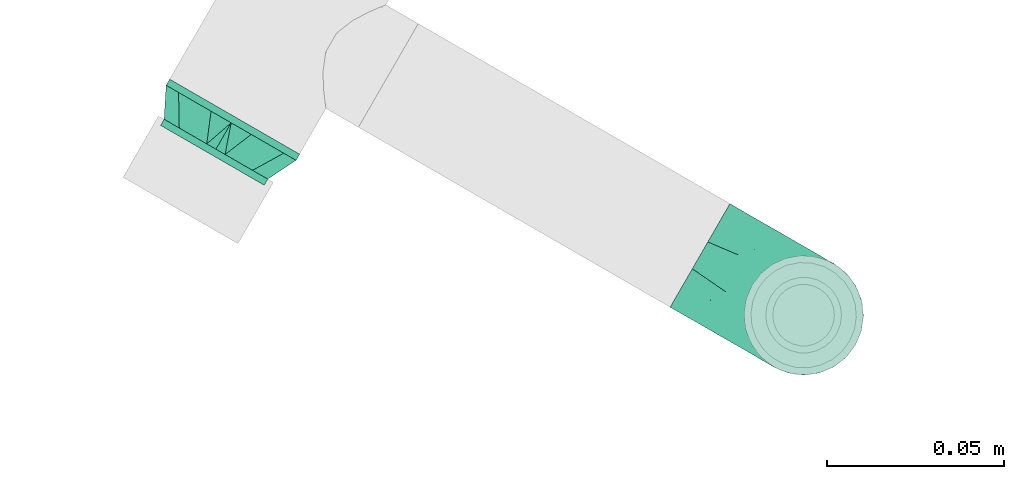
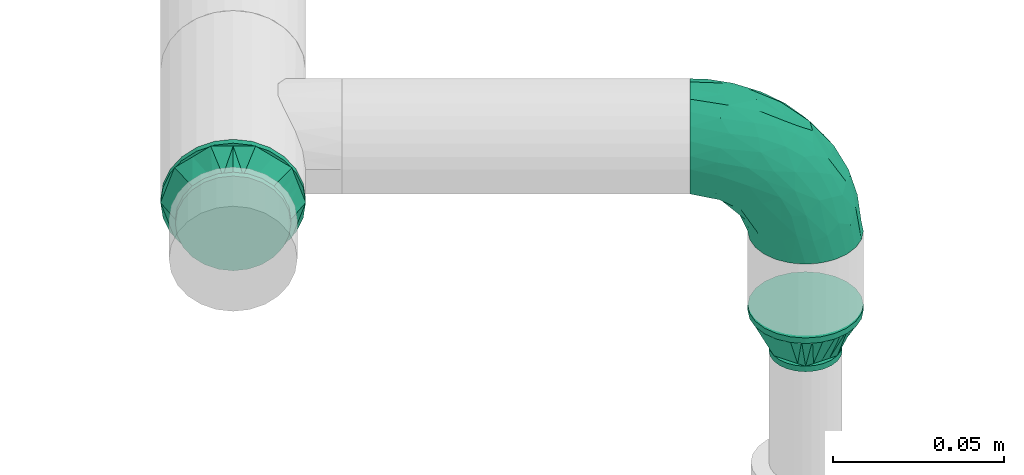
# One storey, part 23 of 43: 3 flow fittings.
"""IFC2X3 building model written with IfcOpenShell, lengths in millimetres."""

from ifc_helpers import new_model, entity, si_unit, converted_unit, derived_unit, direction, frame, origin_with_axes, place, context, subcontext, project, spatial, open_shell, surface_model, source, transform, mapped, type_object, element, save


model = new_model("IFC2X3")

# Units and contexts
model_context = context("Model", 3, precision=0.01, world=frame((0.0, 4.29681676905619e-09, 0.0)), true_north=direction((4.01073788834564e-13, 1.0)))
plan_context = context("Plan", 3, precision=0.01, world=frame((0.0, 4.29681676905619e-09, 0.0)), true_north=direction((4.01073788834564e-13, 1.0)))
body_context = subcontext(model_context, "Body", "Model", "MODEL_VIEW")
ifc_project = project(units=[converted_unit("PLANEANGLEUNIT", "DEGREE", entity("IfcPositiveLengthMeasure", 0.0174532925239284), si_unit("PLANEANGLEUNIT", "RADIAN"), dimensions=[0, 0, 0, 0, 0, 0, 0]), si_unit("AREAUNIT", "SQUARE_METRE"), si_unit("LENGTHUNIT", "METRE", prefix="MILLI"), si_unit("MASSUNIT", "GRAM", prefix="KILO"), si_unit("POWERUNIT", "WATT"), si_unit("PRESSUREUNIT", "PASCAL"), si_unit("FORCEUNIT", "NEWTON", prefix="KILO"), si_unit("ELECTRICVOLTAGEUNIT", "VOLT"), si_unit("ELECTRICCURRENTUNIT", "AMPERE"), si_unit("THERMODYNAMICTEMPERATUREUNIT", "DEGREE_CELSIUS"), si_unit("TIMEUNIT", "SECOND"), si_unit("VOLUMEUNIT", "CUBIC_METRE"), derived_unit("LINEARVELOCITYUNIT", [(si_unit("LENGTHUNIT", "METRE"), 1), (si_unit("TIMEUNIT", "SECOND"), -1)]), derived_unit("VOLUMETRICFLOWRATEUNIT", [(si_unit("VOLUMEUNIT", "CUBIC_METRE"), 1), (si_unit("TIMEUNIT", "SECOND"), -1)]), derived_unit("THERMALTRANSMITTANCEUNIT", [(si_unit("POWERUNIT", "WATT"), 1), (si_unit("THERMODYNAMICTEMPERATUREUNIT", "KELVIN"), -1), (si_unit("AREAUNIT", "SQUARE_METRE"), -1)]), derived_unit("SOUNDPRESSUREUNIT", [(si_unit("PRESSUREUNIT", "PASCAL"), 1)])], contexts=[model_context, plan_context])

# Site, building, storey
site_placement = place(None, frame((0.0, -4.29681676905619e-09, 0.0), z_axis=(0.0, 0.0, 1.0), x_axis=(1.0, 0.0, 0.0)))
site = spatial("IfcSite", under=ifc_project, at=site_placement, CompositionType="ELEMENT")
building_placement = place(site_placement, frame((0.0, 4.29681676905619e-09, 0.0), z_axis=(0.0, 0.0, 1.0), x_axis=(1.0, 0.0, 0.0)))
building = spatial("IfcBuilding", under=site, at=building_placement, Name="mc-building", CompositionType="ELEMENT")
storey_placement = place(building_placement, frame((0.0, 0.0, 210900.0), z_axis=(0.0, 0.0, 1.0), x_axis=(1.0, 0.0, 0.0)))
storey = spatial("IfcBuildingStorey", under=building, at=storey_placement, Name="Nivå F", CompositionType="ELEMENT", Elevation=210900.0)

# Flow fittings
pipe_fitting_type_1 = type_object("IfcPipeFittingType", Name="magi_pipe_fe_elbow_short_001", PredefinedType="BEND")
shared_shape_1 = source(origin_with_axes(), body_context, "Body", "SurfaceModel", [
    surface_model("IfcShellBasedSurfaceModel", [(-33.8, 4.37404, -16.32415), (-33.8, 0.0, -16.9), (-33.8, 11.9501, -11.9501), (-33.8, 8.45, -14.63583), (-33.8, 16.32415, -4.37404), (-33.8, 14.63583, -8.45), (-33.8, -14.63583, -8.45), (-33.8, -16.32415, -4.37404), (-33.8, -8.45, 14.63583), (-33.8, -11.9501, -11.9501), (-33.8, -8.45, -14.63583), (-33.8, -4.37404, -16.32415), (-33.8, -16.9, 0.0), (-33.8, -16.32415, 4.37404), (-33.8, 11.9501, 11.9501), (-33.8, 14.63583, 8.45), (-33.8, 16.32415, 4.37404), (-33.8, 4.37404, 16.32415), (-33.8, 8.45, 14.63583), (-33.8, -14.63583, 8.45), (-33.8, -11.9501, 11.9501), (-33.8, -4.37404, 16.32415), (-33.8, 0.0, 16.9), (-33.8, 16.9, 0.0), (-11.9501, 33.8, -11.9501), (0.0, 33.8, -16.9), (-4.37404, 33.8, -16.32415), (-8.45, 33.8, -14.63583), (-14.63583, 33.8, -8.45), (-16.32415, 33.8, -4.37404), (14.63583, 33.8, -8.45), (8.45, 33.8, 14.63583), (16.32415, 33.8, -4.37404), (8.45, 33.8, -14.63583), (11.9501, 33.8, -11.9501), (4.37404, 33.8, -16.32415), (16.32415, 33.8, 4.37404), (16.9, 33.8, 0.0), (-11.9501, 33.8, 11.9501), (-16.32415, 33.8, 4.37404), (-14.63583, 33.8, 8.45), (-8.45, 33.8, 14.63583), (-4.37404, 33.8, 16.32415), (11.9501, 33.8, 11.9501), (14.63583, 33.8, 8.45), (0.0, 33.8, 16.9), (4.37404, 33.8, 16.32415), (-16.9, 33.8, 0.0), (-24.79389, -13.12945, 9.48721), (-22.19287, -9.75018, 12.59315), (-24.09897, -14.97035, 0.0), (-14.93934, -10.76256, 8.5297), (-22.46095, -14.75051, 5.27077), (14.75051, 22.46094, 5.27077), (11.9251, 13.23888, 4.33236), (13.04069, 14.39795, 0.0), (7.71387, 13.68847, 11.55891), (9.75018, 22.19287, 12.59315), (4.10169, 13.0571, 14.04018), (-24.84007, -6.39063, 15.2048), (-25.81779, -2.23879, 16.61097), (-23.66549, 2.59054, 16.87119), (-26.50418, 14.06512, 11.08152), (-24.21253, 17.66365, 7.72657), (-29.58514, 15.86957, 7.00283), (-6.17382, -7.5455, 0.0), (-13.23888, -11.9251, 4.33236), (-14.39795, -13.04069, 0.0), (-17.81434, 18.87373, 11.97104), (-6.30846, 29.15138, 15.82987), (-2.31622, 25.28002, 16.85849), (-29.23923, 10.23435, 13.77053), (-1.45439, -2.85688, 7.61475), (-0.28326, 0.34872, 10.09509), (-5.74484, -4.04709, 10.4122), (-4.41137, 11.31918, 16.59407), (-8.39727, 3.10034, 15.7812), (-1.72649, 9.1306, 15.53089), (-17.39909, 24.75344, 7.64977), (-26.19233, 20.0512, 0.0), (-28.14518, 17.29657, 4.25857), (-26.05147, 6.6281, 15.96447), (-5.87354, 16.61944, 16.86968), (-12.51807, 12.51807, 16.48937), (-10.06312, 7.38516, 16.81295), (-3.01882, 3.01882, 13.81718), (-13.0571, -4.10169, 14.04018), (-16.82553, -0.15166, 16.38038), (10.76256, 14.93934, 8.5297), (13.12945, 24.79389, 9.48721), (6.39063, 24.84007, 15.2048), (2.23879, 25.81779, 16.61097), (-13.68847, -7.71387, 11.55891), (14.97035, 24.09897, 0.0), (-7.30894, 22.89991, 16.09489), (-10.67958, 26.17414, 14.008), (-12.78295, 18.26924, 15.06066), (-13.88562, 22.45231, 12.93244), (-18.04944, 15.16501, 14.04434), (-23.11658, 20.08178, 4.02986), (-21.84989, 21.84989, 0.0), (-18.55817, 25.48277, 3.93065), (-13.95142, 26.94732, 11.03289), (-18.57098, 7.23906, 16.59756), (-16.58335, 4.14122, 16.89279), (-17.96666, 11.46709, 15.63151), (-9.84453, 17.54304, 16.18938), (0.15166, 16.82553, 16.38038), (-23.27207, 11.47201, 14.23154), (3.84842, 5.86994, 10.70473), (-8.0212, -7.54413, 7.93275), (1.00345, -2.19508, 4.57414), (5.13203, 3.01004, 5.90201), (5.24161, 1.7543, 2.53265), (8.70457, 7.04947, 3.99182), (-20.0512, 26.19233, 0.0), (8.4852, 8.76699, 7.09296), (-4.55488, -6.72064, 4.90681), (2.05031, -2.05031, 0.0), (7.5455, 6.17382, 0.0), (-26.75399, 2.1369, -16.845), (-14.61995, 24.73803, -11.27736), (-28.45274, -13.45335, -9.81895), (-26.00469, 6.63555, -15.96645), (-23.06726, 20.04573, -4.26202), (-13.80647, -4.26506, -14.17873), (-14.67501, -0.21081, -16.07388), (-6.7902, -0.2828, -13.8478), (-24.53586, 11.08096, -14.13417), (-26.72048, 14.00837, -11.05776), (10.0967, 24.44989, -12.75976), (5.83237, 21.40218, -15.03047), (6.66249, 28.54238, -15.38093), (-20.38182, 15.48705, -12.74596), (-15.65186, 19.64213, -13.01327), (-12.03528, 20.66498, -14.67665), (-15.61907, 15.61906, -14.83879), (-25.56551, -15.26206, 0.0), (-24.65452, -15.12934, -5.50955), (12.53268, 21.23441, -9.15363), (13.45335, 28.45274, -9.81895), (15.12934, 24.65452, -5.50955), (-7.35442, -8.31014, -5.65563), (-15.67504, -12.54494, -5.54878), (-24.44989, -10.0967, -12.75976), (0.16522, 0.41303, -9.71728), (-5.70658, -5.33066, -8.89288), (-5.13869, -2.37198, -11.53565), (-21.23441, -12.53268, -9.15363), (0.71146, 7.93863, -14.09382), (0.21081, 14.67501, -16.07388), (3.49291, 14.42772, -14.76381), (-24.89911, -2.13088, -16.591), (-28.54238, -6.66249, -15.38093), (-18.44386, -7.71663, -13.26957), (2.13088, 24.89911, -16.591), (-28.64342, 17.44413, -2.89318), (1.70017, -1.28722, -5.09504), (-16.57067, 26.81947, -7.36596), (-17.69055, 27.4263, -3.76405), (-12.89279, -9.7522, -8.66343), (-5.96611, 5.96611, -15.95814), (-20.53709, 20.09345, -8.28985), (-2.1369, 26.75399, -16.845), (-6.89872, 24.58781, -16.02578), (-10.60739, 26.53157, -13.98044), (-21.40218, -5.83237, -15.03047), (2.93192, 5.89627, -11.55917), (6.89393, 12.61842, -11.82233), (5.58056, 5.95325, -8.79455), (-3.99512, 18.61798, -16.89635), (-9.1383, 9.86148, -16.89041), (-9.99983, 16.02119, -16.39699), (-16.68576, 9.78031, -16.34199), (-27.01915, 16.61158, -7.12979), (15.26206, 25.56551, 0.0), (-18.61798, 3.99512, -16.89635), (-19.37495, 27.82495, 0.0), (9.7522, 12.89279, -8.66343), (-12.61842, -6.89393, -11.82233), (8.31014, 7.35442, -5.65563), (-18.84705, 19.14018, -10.96545), (12.54494, 15.67504, -5.54878)], [open_shell([[[0, 1, 2]], [[3, 0, 2]], [[4, 5, 2]], [[6, 2, 1]], [[2, 7, 8]], [[9, 6, 10]], [[1, 11, 10]], [[10, 6, 1]], [[2, 6, 7]], [[12, 13, 7]], [[4, 2, 14]], [[4, 15, 16]], [[4, 14, 15]], [[17, 18, 14]], [[14, 2, 8]], [[17, 14, 8]], [[19, 20, 13]], [[20, 7, 13]], [[21, 22, 8]], [[20, 8, 7]], [[8, 22, 17]], [[4, 16, 23]], [[24, 25, 26]], [[24, 26, 27]], [[24, 28, 29]], [[25, 24, 30]], [[31, 32, 24]], [[33, 30, 34]], [[33, 35, 25]], [[25, 30, 33]], [[32, 30, 24]], [[32, 36, 37]], [[38, 24, 29]], [[39, 40, 29]], [[40, 38, 29]], [[38, 41, 42]], [[38, 31, 24]], [[31, 38, 42]], [[36, 43, 44]], [[36, 32, 43]], [[31, 45, 46]], [[32, 31, 43]], [[42, 45, 31]], [[39, 29, 47]], [[20, 48, 49]], [[13, 12, 50]], [[51, 48, 52]], [[53, 54, 55]], [[48, 20, 19]], [[13, 52, 19]], [[56, 57, 58]], [[49, 8, 20]], [[49, 59, 8]], [[22, 60, 61]], [[62, 63, 64]], [[65, 66, 67]], [[57, 43, 31]], [[62, 68, 63]], [[42, 69, 70]], [[18, 71, 14]], [[21, 60, 22]], [[72, 73, 74]], [[75, 76, 77]], [[14, 62, 15]], [[40, 39, 78]], [[79, 23, 80]], [[64, 16, 15]], [[22, 61, 17]], [[17, 81, 18]], [[82, 83, 84]], [[74, 85, 86]], [[59, 86, 87]], [[88, 89, 57]], [[90, 31, 46]], [[44, 53, 36]], [[46, 45, 91]], [[54, 53, 88]], [[44, 89, 53]], [[92, 86, 49]], [[89, 44, 43]], [[8, 59, 21]], [[53, 55, 93]], [[93, 36, 53]], [[66, 52, 67]], [[94, 82, 70]], [[95, 96, 94]], [[97, 98, 96]], [[79, 99, 100]], [[41, 38, 95]], [[101, 100, 99]], [[68, 78, 63]], [[42, 41, 69]], [[23, 16, 80]], [[95, 94, 69]], [[78, 101, 99]], [[38, 102, 95]], [[70, 45, 42]], [[97, 95, 102]], [[13, 50, 52]], [[90, 57, 31]], [[57, 90, 58]], [[81, 17, 61]], [[103, 104, 84]], [[105, 81, 103]], [[38, 40, 102]], [[106, 96, 83]], [[94, 106, 82]], [[91, 70, 107]], [[71, 62, 14]], [[62, 108, 98]], [[86, 59, 49]], [[67, 52, 50]], [[60, 59, 87]], [[92, 49, 51]], [[86, 85, 76]], [[91, 90, 46]], [[37, 36, 93]], [[107, 77, 58]], [[107, 58, 90]], [[58, 85, 109]], [[110, 74, 92]], [[72, 74, 110]], [[66, 51, 52]], [[72, 111, 112]], [[113, 114, 112]], [[56, 88, 57]], [[52, 48, 19]], [[49, 48, 51]], [[57, 89, 43]], [[53, 89, 88]], [[103, 81, 61]], [[71, 81, 108]], [[16, 64, 80]], [[63, 78, 99]], [[47, 115, 101]], [[101, 115, 100]], [[40, 78, 102]], [[68, 102, 78]], [[97, 96, 95]], [[105, 98, 108]], [[103, 84, 83]], [[107, 70, 82]], [[76, 84, 87]], [[82, 84, 75]], [[70, 91, 45]], [[90, 91, 107]], [[59, 60, 21]], [[61, 60, 87]], [[73, 85, 74]], [[109, 112, 116]], [[103, 61, 104]], [[105, 103, 83]], [[96, 105, 83]], [[81, 105, 108]], [[96, 98, 105]], [[62, 98, 68]], [[61, 87, 104]], [[87, 84, 104]], [[86, 76, 87]], [[77, 76, 85]], [[58, 77, 85]], [[75, 77, 107]], [[82, 75, 107]], [[76, 75, 84]], [[81, 71, 18]], [[62, 71, 108]], [[95, 69, 41]], [[70, 69, 94]], [[62, 64, 15]], [[80, 63, 99]], [[63, 80, 64]], [[80, 99, 79]], [[66, 65, 117]], [[110, 66, 117]], [[112, 114, 116]], [[118, 117, 65]], [[110, 92, 51]], [[112, 111, 113]], [[119, 55, 54]], [[74, 86, 92]], [[58, 109, 56]], [[116, 56, 109]], [[66, 110, 51]], [[72, 110, 117]], [[111, 72, 117]], [[73, 112, 109]], [[117, 118, 111]], [[113, 111, 118]], [[118, 119, 113]], [[114, 119, 54]], [[119, 114, 113]], [[116, 54, 88]], [[54, 116, 114]], [[116, 88, 56]], [[112, 73, 72]], [[85, 73, 109]], [[78, 39, 101]], [[47, 101, 39]], [[102, 68, 97]], [[97, 68, 98]], [[82, 106, 83]], [[94, 96, 106]], [[0, 120, 1]], [[28, 24, 121]], [[9, 122, 6]], [[3, 123, 0]], [[100, 124, 79]], [[125, 126, 127]], [[128, 2, 129]], [[130, 131, 132]], [[128, 129, 133]], [[134, 135, 136]], [[128, 3, 2]], [[67, 137, 138]], [[139, 140, 141]], [[138, 7, 6]], [[142, 65, 143]], [[144, 9, 10]], [[145, 146, 147]], [[143, 138, 148]], [[149, 150, 151]], [[152, 11, 1]], [[10, 153, 144]], [[148, 144, 154]], [[153, 10, 11]], [[35, 155, 25]], [[23, 79, 156]], [[146, 157, 142]], [[158, 159, 29]], [[143, 160, 142]], [[161, 150, 149]], [[29, 28, 158]], [[121, 162, 158]], [[33, 34, 130]], [[25, 163, 26]], [[26, 163, 164]], [[140, 34, 30]], [[24, 27, 165]], [[124, 159, 162]], [[155, 35, 132]], [[153, 152, 166]], [[123, 3, 128]], [[167, 168, 169]], [[170, 155, 150]], [[26, 164, 27]], [[132, 35, 33]], [[140, 130, 34]], [[166, 152, 126]], [[133, 134, 136]], [[2, 5, 129]], [[168, 131, 130]], [[30, 32, 141]], [[170, 171, 172]], [[173, 123, 128]], [[156, 174, 4]], [[165, 27, 164]], [[172, 164, 170]], [[134, 165, 135]], [[122, 138, 6]], [[137, 12, 7]], [[32, 37, 175]], [[168, 130, 139]], [[150, 155, 131]], [[163, 155, 170]], [[151, 168, 149]], [[150, 161, 171]], [[166, 125, 154]], [[122, 144, 148]], [[120, 152, 1]], [[176, 171, 126]], [[176, 126, 152]], [[126, 161, 127]], [[160, 143, 148]], [[137, 7, 138]], [[32, 175, 141]], [[55, 141, 175]], [[174, 129, 5]], [[128, 133, 136]], [[173, 128, 136]], [[120, 123, 176]], [[121, 158, 28]], [[159, 100, 177]], [[164, 172, 135]], [[121, 24, 165]], [[159, 47, 29]], [[79, 124, 156]], [[124, 162, 174]], [[159, 124, 100]], [[178, 169, 168]], [[127, 161, 149]], [[145, 169, 157]], [[146, 142, 160]], [[127, 149, 167]], [[127, 179, 125]], [[129, 174, 162]], [[5, 4, 174]], [[157, 65, 142]], [[67, 138, 143]], [[123, 120, 0]], [[152, 120, 176]], [[155, 163, 25]], [[164, 163, 170]], [[170, 150, 171]], [[173, 136, 172]], [[126, 171, 161]], [[173, 171, 176]], [[171, 173, 172]], [[123, 173, 176]], [[148, 179, 160]], [[127, 147, 179]], [[179, 146, 160]], [[157, 146, 145]], [[169, 178, 180]], [[168, 139, 178]], [[157, 169, 180]], [[169, 145, 167]], [[167, 145, 147]], [[149, 168, 167]], [[162, 181, 129]], [[181, 121, 134]], [[179, 147, 146]], [[167, 147, 127]], [[181, 134, 133]], [[165, 134, 121]], [[164, 135, 165]], [[172, 136, 135]], [[129, 181, 133]], [[121, 181, 162]], [[159, 158, 162]], [[47, 159, 177]], [[174, 156, 124]], [[23, 156, 4]], [[130, 132, 33]], [[155, 132, 131]], [[141, 140, 30]], [[130, 140, 139]], [[152, 153, 11]], [[144, 153, 166]], [[144, 122, 9]], [[138, 122, 148]], [[150, 131, 151]], [[157, 119, 118]], [[67, 143, 65]], [[168, 151, 131]], [[119, 157, 180]], [[157, 118, 65]], [[154, 125, 179]], [[126, 125, 166]], [[148, 154, 179]], [[166, 154, 144]], [[139, 182, 178]], [[141, 182, 139]], [[178, 182, 180]], [[182, 55, 119]], [[141, 55, 182]], [[182, 119, 180]]])]),
])
flow_fitting_1_placement = place(storey_placement, frame((605335.38757, 696042.5621, 2270.0), z_axis=(-0.500000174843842, -0.866025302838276, 0.0), x_axis=(0.0, 0.0, 1.0)))
element("IfcFlowFitting", 1, at=flow_fitting_1_placement, inside=storey, type_object=pipe_fitting_type_1, Name="magi_pipe_fe_elbow_short_001", context=body_context, shape_type="MappedRepresentation", body=[
    mapped(shared_shape_1, transform((0.0, 0.0, 0.0), scale=1.0)),
])
pipe_fitting_type_2 = type_object("IfcPipeFittingType", Name="magi_pipe_fe_reducer_centric_short_NOR", PredefinedType="TRANSITION")
shared_shape_2 = source(origin_with_axes(), body_context, "Body", "SurfaceModel", [
    surface_model("IfcShellBasedSurfaceModel", [(10.6, 4.37404, -16.32415), (10.6, 8.45, -14.63583), (10.6, 11.9501, -11.9501), (10.6, -8.45, -14.63583), (10.6, 16.32415, -4.37404), (10.6, 16.32415, 4.37404), (10.6, 14.63583, -8.45), (10.6, 0.0, -16.9), (10.6, -4.37404, -16.32415), (10.6, -11.9501, -11.9501), (10.6, -16.32415, -4.37404), (10.6, -14.63583, -8.45), (10.6, -16.32415, 4.37404), (10.6, 16.9, 0.0), (10.6, 14.63583, 8.45), (10.6, 11.9501, 11.9501), (10.6, 4.37404, 16.32415), (10.6, 8.45, 14.63583), (10.6, 0.0, 16.9), (10.6, -14.63583, 8.45), (10.6, -16.9, 0.0), (10.6, -8.45, 14.63583), (10.6, -11.9501, 11.9501), (10.6, -4.37404, 16.32415), (8.6, 4.37404, 16.32415), (8.6, -14.63583, 8.45), (8.6, 0.0, 16.9), (8.6, 16.32415, 4.37404), (8.6, 8.45, 14.63583), (8.6, 11.9501, 11.9501), (8.6, 14.63583, 8.45), (8.6, -8.45, 14.63583), (8.6, -11.9501, 11.9501), (8.6, -4.37404, 16.32415), (8.6, -16.32415, 4.37404), (8.6, -16.32415, -4.37404), (8.6, -16.9, 0.0), (8.6, -8.45, -14.63583), (8.6, 16.32415, -4.37404), (8.6, 11.9501, -11.9501), (8.6, 14.63583, -8.45), (8.6, 8.45, -14.63583), (8.6, 4.37404, -16.32415), (8.6, 0.0, -16.9), (8.6, -11.9501, -11.9501), (8.6, -14.63583, -8.45), (8.6, -4.37404, -16.32415), (8.6, 16.9, 0.0), (-2.0, 0.0, 21.2), (-2.0, 5.48696, 20.47763), (-2.0, 10.6, 18.35974), (-2.0, 14.99066, 14.99066), (-2.0, 18.35974, 10.6), (-2.0, 20.47763, 5.48696), (-2.0, -21.2, 0.0), (-2.0, -14.99066, -14.99066), (-2.0, -5.48696, 20.47763), (-2.0, -14.99066, 14.99066), (-2.0, -10.6, 18.35974), (-2.0, -18.35974, 10.6), (-2.0, -20.47763, 5.48696), (-2.0, 20.47763, -5.48696), (-2.0, 10.6, -18.35974), (-2.0, 14.99066, -14.99066), (-2.0, 18.35974, -10.6), (-2.0, 5.48696, -20.47763), (-2.0, 0.0, -21.2), (-2.0, -18.35974, -10.6), (-2.0, -20.47763, -5.48696), (-2.0, -10.6, -18.35974), (-2.0, -5.48696, -20.47763), (-2.0, 21.2, 0.0), (0.0, 10.6, -18.35974), (0.0, 0.0, -21.2), (0.0, 5.48696, -20.47763), (0.0, 20.47763, -5.48696), (0.0, 14.99066, -14.99066), (0.0, -21.2, 0.0), (0.0, -14.99066, -14.99066), (0.0, 18.35974, -10.6), (0.0, -10.6, -18.35974), (0.0, -5.48696, -20.47763), (0.0, -18.35974, -10.6), (0.0, -20.47763, -5.48696), (0.0, -18.35974, 10.6), (0.0, 21.2, 0.0), (0.0, 20.47763, 5.48696), (0.0, 18.35974, 10.6), (0.0, 14.99066, 14.99066), (0.0, 0.0, 21.2), (0.0, 10.6, 18.35974), (0.0, 5.48696, 20.47763), (0.0, -14.99066, 14.99066), (0.0, -20.47763, 5.48696), (0.0, -5.48696, 20.47763), (0.0, -10.6, 18.35974), (0.0, 6.55116, 20.1624), (0.0, 17.15116, 12.46105), (0.0, -17.15116, 12.46105), (0.0, -6.55116, 20.1624), (0.0, 6.55116, -20.1624), (0.0, 17.15116, -12.46105), (0.0, -6.55116, -20.1624), (0.0, -17.15116, -12.46105), (8.6, -13.18758, -8.96258), (0.0, 11.85116, -16.31172), (0.0, 14.50116, -14.38638), (8.6, -14.42505, -5.97505), (0.0, -19.17558, -6.23052), (0.0, -18.16337, -9.34579), (8.6, 5.97505, -14.42505), (8.6, 14.42505, -5.97505), (0.0, 19.17558, -6.23052), (0.0, 0.0, -20.1624), (8.6, 2.98753, -15.66253), (8.6, 13.18758, -8.96258), (8.6, -2.98753, -15.66253), (8.6, 15.66253, -2.98753), (8.6, -15.66253, -2.98753), (0.0, -11.85116, -16.31172), (8.6, -5.97505, -14.42505), (8.6, -8.96258, -13.18758), (8.6, 8.96258, -13.18758), (8.6, 13.18758, 8.96258), (0.0, -11.85116, 16.31172), (0.0, -14.50116, 14.38638), (8.6, 14.42505, 5.97505), (0.0, 19.17558, 6.23052), (0.0, 18.16337, 9.34579), (8.6, -5.97505, 14.42505), (8.6, -14.42505, 5.97505), (0.0, -19.17558, 6.23052), (0.0, 0.0, 20.1624), (8.6, -2.98753, 15.66253), (8.6, -13.18758, 8.96258), (8.6, 2.98753, 15.66253), (8.6, -15.66253, 2.98753), (8.6, 15.66253, 2.98753), (0.0, 11.85116, 16.31172), (8.6, 5.97505, 14.42505), (8.6, 8.96258, 13.18758), (8.6, -8.96258, 13.18758)], [open_shell([[[0, 1, 2]], [[3, 0, 2]], [[2, 4, 5]], [[4, 2, 6]], [[2, 5, 3]], [[7, 3, 8]], [[7, 0, 3]], [[9, 10, 11]], [[10, 9, 3]], [[3, 12, 10]], [[5, 4, 13]], [[5, 14, 15]], [[5, 15, 16]], [[16, 12, 3]], [[16, 15, 17]], [[12, 16, 18]], [[18, 19, 12]], [[20, 10, 12]], [[19, 21, 22]], [[19, 18, 21]], [[21, 18, 23]], [[3, 5, 16]], [[24, 25, 26]], [[27, 24, 28]], [[29, 30, 27]], [[29, 27, 28]], [[25, 24, 27]], [[31, 25, 32]], [[31, 33, 26]], [[26, 25, 31]], [[34, 25, 27]], [[34, 35, 36]], [[34, 27, 37]], [[27, 38, 39]], [[39, 38, 40]], [[39, 41, 42]], [[37, 27, 39]], [[42, 43, 39]], [[35, 44, 45]], [[44, 35, 37]], [[37, 43, 46]], [[35, 34, 37]], [[39, 43, 37]], [[38, 27, 47]], [[35, 10, 36]], [[45, 11, 35]], [[3, 44, 37]], [[45, 44, 9]], [[8, 37, 46]], [[35, 11, 10]], [[10, 20, 36]], [[8, 3, 37]], [[9, 44, 3]], [[9, 11, 45]], [[7, 8, 46]], [[46, 43, 7]], [[42, 0, 43]], [[41, 1, 42]], [[6, 39, 40]], [[41, 39, 2]], [[4, 40, 38]], [[41, 2, 1]], [[1, 0, 42]], [[13, 4, 38]], [[6, 40, 4]], [[6, 2, 39]], [[47, 13, 38]], [[43, 0, 7]], [[27, 5, 47]], [[30, 14, 27]], [[17, 29, 28]], [[30, 29, 15]], [[16, 28, 24]], [[27, 14, 5]], [[5, 13, 47]], [[16, 17, 28]], [[15, 29, 17]], [[15, 14, 30]], [[18, 16, 24]], [[24, 26, 18]], [[33, 23, 26]], [[31, 21, 33]], [[19, 32, 25]], [[31, 32, 22]], [[12, 25, 34]], [[31, 22, 21]], [[21, 23, 33]], [[20, 12, 34]], [[19, 25, 12]], [[19, 22, 32]], [[36, 20, 34]], [[26, 23, 18]], [[48, 49, 50]], [[48, 50, 51]], [[51, 52, 53]], [[51, 53, 48]], [[54, 48, 55]], [[56, 57, 58]], [[56, 48, 57]], [[59, 54, 60]], [[57, 48, 59]], [[48, 54, 59]], [[48, 53, 55]], [[53, 61, 62]], [[63, 61, 64]], [[55, 53, 62]], [[62, 61, 63]], [[65, 66, 62]], [[54, 67, 68]], [[55, 67, 54]], [[69, 66, 70]], [[69, 55, 62]], [[66, 69, 62]], [[61, 53, 71]], [[72, 73, 74]], [[75, 72, 76]], [[77, 78, 72]], [[75, 76, 79]], [[75, 77, 72]], [[73, 80, 81]], [[73, 72, 80]], [[82, 77, 83]], [[80, 72, 78]], [[82, 78, 77]], [[84, 75, 85]], [[86, 87, 88]], [[86, 88, 89]], [[90, 91, 89]], [[90, 89, 88]], [[86, 89, 92]], [[77, 84, 93]], [[75, 84, 77]], [[92, 94, 95]], [[84, 86, 92]], [[89, 94, 92]], [[84, 85, 86]], [[68, 83, 54]], [[67, 82, 68]], [[80, 55, 69]], [[67, 55, 78]], [[81, 69, 70]], [[68, 82, 83]], [[83, 77, 54]], [[81, 80, 69]], [[78, 55, 80]], [[78, 82, 67]], [[73, 81, 70]], [[70, 66, 73]], [[65, 74, 66]], [[62, 72, 65]], [[79, 63, 64]], [[62, 63, 76]], [[75, 64, 61]], [[62, 76, 72]], [[72, 74, 65]], [[85, 75, 61]], [[79, 64, 75]], [[79, 76, 63]], [[71, 85, 61]], [[66, 74, 73]], [[53, 86, 71]], [[52, 87, 53]], [[90, 51, 50]], [[52, 51, 88]], [[91, 50, 49]], [[53, 87, 86]], [[86, 85, 71]], [[91, 90, 50]], [[88, 51, 90]], [[88, 87, 52]], [[89, 91, 49]], [[49, 48, 89]], [[56, 94, 48]], [[58, 95, 56]], [[84, 57, 59]], [[58, 57, 92]], [[93, 59, 60]], [[58, 92, 95]], [[95, 94, 56]], [[77, 93, 60]], [[84, 59, 93]], [[84, 92, 57]], [[54, 77, 60]], [[48, 94, 89]], [[26, 32, 29]], [[47, 29, 32]], [[32, 43, 47]], [[43, 32, 44]], [[39, 47, 43]], [[44, 32, 36]], [[96, 97, 98]], [[96, 98, 99]], [[98, 97, 77]], [[97, 100, 77]], [[100, 97, 101]], [[77, 102, 103]], [[77, 100, 102]], [[101, 97, 85]], [[103, 44, 104]], [[39, 105, 106]], [[107, 108, 109]], [[105, 110, 100]], [[39, 106, 101]], [[111, 101, 112]], [[113, 114, 43]], [[101, 111, 115]], [[113, 116, 102]], [[85, 117, 112]], [[77, 118, 36]], [[44, 103, 119]], [[119, 120, 121]], [[77, 108, 118]], [[116, 113, 43]], [[100, 110, 114]], [[116, 120, 102]], [[100, 114, 113]], [[122, 110, 105]], [[117, 85, 47]], [[107, 118, 108]], [[103, 104, 109]], [[104, 107, 109]], [[39, 101, 115]], [[120, 119, 102]], [[121, 44, 119]], [[117, 111, 112]], [[105, 39, 122]], [[97, 29, 123]], [[32, 124, 125]], [[126, 127, 128]], [[124, 129, 99]], [[32, 125, 98]], [[130, 98, 131]], [[132, 133, 26]], [[98, 130, 134]], [[132, 135, 96]], [[77, 136, 131]], [[85, 137, 47]], [[29, 97, 138]], [[138, 139, 140]], [[85, 127, 137]], [[135, 132, 26]], [[99, 129, 133]], [[135, 139, 96]], [[99, 133, 132]], [[141, 129, 124]], [[136, 77, 36]], [[126, 137, 127]], [[97, 123, 128]], [[123, 126, 128]], [[32, 98, 134]], [[139, 138, 96]], [[140, 29, 138]], [[136, 130, 131]], [[124, 32, 141]]])]),
])
flow_fitting_2_placement = place(storey_placement, frame((605173.6528, 696096.91084, 2270.0), z_axis=(0.0, 0.0, 1.0), x_axis=(-0.500000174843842, -0.866025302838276, 0.0)))
element("IfcFlowFitting", 2, at=flow_fitting_2_placement, inside=storey, type_object=pipe_fitting_type_2, Name="magi_pipe_fe_reducer_centric_short_NOR", context=body_context, shape_type="MappedRepresentation", body=[
    mapped(shared_shape_2, transform((0.0, 0.0, 0.0), scale=1.0)),
])
shared_shape_3 = source(origin_with_axes(), body_context, "Body", "SurfaceModel", [
    surface_model("IfcShellBasedSurfaceModel", [(14.4, 4.37404, -16.32415), (14.4, 8.45, -14.63583), (14.4, 11.9501, -11.9501), (14.4, -8.45, -14.63583), (14.4, 16.32415, -4.37404), (14.4, 16.32415, 4.37404), (14.4, 14.63583, -8.45), (14.4, 0.0, -16.9), (14.4, -4.37404, -16.32415), (14.4, -11.9501, -11.9501), (14.4, -16.32415, -4.37404), (14.4, -14.63583, -8.45), (14.4, -16.32415, 4.37404), (14.4, 16.9, 0.0), (14.4, 14.63583, 8.45), (14.4, 11.9501, 11.9501), (14.4, 4.37404, 16.32415), (14.4, 8.45, 14.63583), (14.4, 0.0, 16.9), (14.4, -14.63583, 8.45), (14.4, -16.9, 0.0), (14.4, -8.45, 14.63583), (14.4, -11.9501, 11.9501), (14.4, -4.37404, 16.32415), (12.4, 4.37404, 16.32415), (12.4, -14.63583, 8.45), (12.4, 0.0, 16.9), (12.4, 16.32415, 4.37404), (12.4, 8.45, 14.63583), (12.4, 11.9501, 11.9501), (12.4, 14.63583, 8.45), (12.4, -8.45, 14.63583), (12.4, -11.9501, 11.9501), (12.4, -4.37404, 16.32415), (12.4, -16.32415, 4.37404), (12.4, -16.32415, -4.37404), (12.4, -16.9, 0.0), (12.4, -8.45, -14.63583), (12.4, 16.32415, -4.37404), (12.4, 11.9501, -11.9501), (12.4, 14.63583, -8.45), (12.4, 8.45, -14.63583), (12.4, 4.37404, -16.32415), (12.4, 0.0, -16.9), (12.4, -11.9501, -11.9501), (12.4, -14.63583, -8.45), (12.4, -4.37404, -16.32415), (12.4, 16.9, 0.0), (-2.0, 10.33541, 2.76936), (-2.0, 0.0, 10.7), (-2.0, 2.76936, 10.33541), (-2.0, 7.56604, 7.56604), (-2.0, 5.35, 9.26647), (-2.0, 9.26647, 5.35), (-2.0, -9.26647, 5.35), (-2.0, -2.76936, 10.33541), (-2.0, -7.56604, 7.56604), (-2.0, -5.35, 9.26647), (-2.0, -10.33541, 2.76936), (-2.0, -10.33541, -2.76936), (-2.0, -10.7, 0.0), (-2.0, 10.33541, -2.76936), (-2.0, 7.56604, -7.56604), (-2.0, 9.26647, -5.35), (-2.0, 5.35, -9.26647), (-2.0, -5.35, -9.26647), (-2.0, 2.76936, -10.33541), (-2.0, -7.56604, -7.56604), (-2.0, -9.26647, -5.35), (-2.0, 0.0, -10.7), (-2.0, -2.76936, -10.33541), (-2.0, 10.7, 0.0), (0.0, 5.35, -9.26647), (0.0, 0.0, -10.7), (0.0, 2.76936, -10.33541), (0.0, 10.33541, -2.76936), (0.0, 7.56604, -7.56604), (0.0, -5.35, -9.26647), (0.0, 9.26647, -5.35), (0.0, -9.26647, 5.35), (0.0, -2.76936, -10.33541), (0.0, -7.56604, -7.56604), (0.0, -10.33541, -2.76936), (0.0, -9.26647, -5.35), (0.0, 10.33541, 2.76936), (0.0, 10.7, 0.0), (0.0, 9.26647, 5.35), (0.0, 7.56604, 7.56604), (0.0, 2.76936, 10.33541), (0.0, 0.0, 10.7), (0.0, 5.35, 9.26647), (0.0, -10.33541, 2.76936), (0.0, -10.7, 0.0), (0.0, -7.56604, 7.56604), (0.0, -2.76936, 10.33541), (0.0, -5.35, 9.26647), (0.0, -9.3625, -2.31662), (12.4, -14.42505, -5.97505), (12.4, -15.66253, -2.98753), (0.0, 6.6875, -6.94985), (12.4, 8.96258, -13.18758), (0.0, -6.6875, -6.94985), (12.4, -8.96258, -13.18758), (0.0, 9.3625, -2.31662), (12.4, 15.66253, -2.98753), (12.4, 14.42505, -5.97505), (12.4, -5.97505, -14.42505), (12.4, 5.97505, -14.42505), (0.0, 2.675, -9.26647), (12.4, 13.18758, -8.96258), (0.0, -2.675, -9.26647), (12.4, -13.18758, -8.96258), (0.0, -8.025, -4.63324), (12.4, 2.98753, -15.66253), (0.0, 0.0, -9.26647), (12.4, -2.98753, -15.66253), (0.0, 8.025, -4.63324), (0.0, 9.3625, 2.31662), (12.4, 14.42505, 5.97505), (12.4, 15.66253, 2.98753), (0.0, -6.6875, 6.94985), (12.4, -8.96258, 13.18758), (0.0, 6.6875, 6.94985), (12.4, 8.96258, 13.18758), (0.0, -9.3625, 2.31662), (12.4, -15.66253, 2.98753), (12.4, -14.42505, 5.97505), (12.4, 5.97505, 14.42505), (12.4, -5.97505, 14.42505), (0.0, -2.675, 9.26647), (12.4, -13.18758, 8.96258), (0.0, 2.675, 9.26647), (12.4, 13.18758, 8.96258), (0.0, 8.025, 4.63324), (12.4, -2.98753, 15.66253), (0.0, 0.0, 9.26647), (12.4, 2.98753, 15.66253), (0.0, -8.025, 4.63324)], [open_shell([[[0, 1, 2]], [[3, 0, 2]], [[2, 4, 5]], [[4, 2, 6]], [[2, 5, 3]], [[7, 3, 8]], [[7, 0, 3]], [[9, 10, 11]], [[10, 9, 3]], [[3, 12, 10]], [[5, 4, 13]], [[5, 14, 15]], [[5, 15, 16]], [[16, 12, 3]], [[16, 15, 17]], [[12, 16, 18]], [[18, 19, 12]], [[20, 10, 12]], [[19, 21, 22]], [[19, 18, 21]], [[21, 18, 23]], [[3, 5, 16]], [[24, 25, 26]], [[27, 24, 28]], [[29, 30, 27]], [[29, 27, 28]], [[25, 24, 27]], [[31, 25, 32]], [[31, 33, 26]], [[26, 25, 31]], [[34, 25, 27]], [[34, 35, 36]], [[34, 27, 37]], [[27, 38, 39]], [[39, 38, 40]], [[39, 41, 42]], [[37, 27, 39]], [[42, 43, 39]], [[35, 44, 45]], [[44, 35, 37]], [[37, 43, 46]], [[35, 34, 37]], [[39, 43, 37]], [[38, 27, 47]], [[35, 10, 36]], [[45, 11, 35]], [[3, 44, 37]], [[45, 44, 9]], [[8, 37, 46]], [[35, 11, 10]], [[10, 20, 36]], [[8, 3, 37]], [[9, 44, 3]], [[9, 11, 45]], [[7, 8, 46]], [[46, 43, 7]], [[42, 0, 43]], [[41, 1, 42]], [[6, 39, 40]], [[41, 39, 2]], [[4, 40, 38]], [[41, 2, 1]], [[1, 0, 42]], [[13, 4, 38]], [[6, 40, 4]], [[6, 2, 39]], [[47, 13, 38]], [[43, 0, 7]], [[27, 5, 47]], [[30, 14, 27]], [[17, 29, 28]], [[30, 29, 15]], [[16, 28, 24]], [[27, 14, 5]], [[5, 13, 47]], [[16, 17, 28]], [[15, 29, 17]], [[15, 14, 30]], [[18, 16, 24]], [[24, 26, 18]], [[33, 23, 26]], [[31, 21, 33]], [[19, 32, 25]], [[31, 32, 22]], [[12, 25, 34]], [[31, 22, 21]], [[21, 23, 33]], [[20, 12, 34]], [[19, 25, 12]], [[19, 22, 32]], [[36, 20, 34]], [[26, 23, 18]], [[48, 49, 50]], [[51, 50, 52]], [[51, 53, 48]], [[51, 48, 50]], [[49, 48, 54]], [[55, 56, 57]], [[56, 55, 54]], [[58, 59, 60]], [[54, 55, 49]], [[58, 54, 59]], [[54, 48, 61]], [[59, 54, 61]], [[62, 61, 63]], [[59, 62, 64]], [[61, 62, 59]], [[65, 64, 66]], [[59, 67, 68]], [[67, 59, 65]], [[65, 69, 70]], [[65, 59, 64]], [[66, 69, 65]], [[61, 48, 71]], [[72, 73, 74]], [[75, 72, 76]], [[77, 72, 75]], [[75, 76, 78]], [[79, 77, 75]], [[73, 77, 80]], [[73, 72, 77]], [[81, 82, 83]], [[82, 81, 77]], [[77, 79, 82]], [[84, 75, 85]], [[84, 86, 87]], [[75, 87, 79]], [[88, 89, 87]], [[88, 87, 90]], [[79, 87, 89]], [[82, 91, 92]], [[79, 91, 82]], [[93, 94, 95]], [[94, 93, 79]], [[89, 94, 79]], [[75, 84, 87]], [[59, 82, 60]], [[68, 83, 59]], [[77, 67, 65]], [[68, 67, 81]], [[80, 65, 70]], [[59, 83, 82]], [[82, 92, 60]], [[80, 77, 65]], [[81, 67, 77]], [[81, 83, 68]], [[73, 80, 70]], [[70, 69, 73]], [[66, 74, 69]], [[64, 72, 66]], [[78, 62, 63]], [[64, 62, 76]], [[75, 63, 61]], [[64, 76, 72]], [[72, 74, 66]], [[85, 75, 61]], [[78, 63, 75]], [[78, 76, 62]], [[71, 85, 61]], [[69, 74, 73]], [[48, 84, 71]], [[53, 86, 48]], [[90, 51, 52]], [[53, 51, 87]], [[88, 52, 50]], [[48, 86, 84]], [[84, 85, 71]], [[88, 90, 52]], [[87, 51, 90]], [[87, 86, 53]], [[89, 88, 50]], [[50, 49, 89]], [[55, 94, 49]], [[57, 95, 55]], [[79, 56, 54]], [[57, 56, 93]], [[91, 54, 58]], [[57, 93, 95]], [[95, 94, 55]], [[92, 91, 58]], [[79, 54, 91]], [[79, 93, 56]], [[60, 92, 58]], [[49, 94, 89]], [[29, 26, 39]], [[39, 47, 29]], [[36, 26, 32]], [[36, 44, 43]], [[43, 39, 36]], [[36, 39, 26]], [[92, 95, 77]], [[85, 95, 90]], [[85, 72, 77]], [[85, 77, 95]], [[96, 97, 98]], [[92, 96, 98]], [[99, 100, 72]], [[98, 36, 92]], [[44, 101, 102]], [[101, 77, 102]], [[103, 104, 105]], [[85, 47, 104]], [[77, 106, 102]], [[107, 108, 72]], [[109, 39, 99]], [[106, 77, 110]], [[101, 111, 112]], [[113, 114, 108]], [[100, 99, 39]], [[110, 115, 106]], [[99, 116, 109]], [[100, 107, 72]], [[96, 112, 97]], [[105, 116, 103]], [[85, 104, 103]], [[108, 107, 113]], [[113, 43, 114]], [[116, 105, 109]], [[114, 115, 110]], [[43, 115, 114]], [[111, 101, 44]], [[111, 97, 112]], [[117, 118, 119]], [[85, 117, 119]], [[120, 121, 95]], [[119, 47, 85]], [[29, 122, 123]], [[122, 90, 123]], [[124, 125, 126]], [[92, 36, 125]], [[90, 127, 123]], [[128, 129, 95]], [[130, 32, 120]], [[127, 90, 131]], [[122, 132, 133]], [[134, 135, 129]], [[121, 120, 32]], [[131, 136, 127]], [[120, 137, 130]], [[121, 128, 95]], [[117, 133, 118]], [[126, 137, 124]], [[92, 125, 124]], [[129, 128, 134]], [[134, 26, 135]], [[137, 126, 130]], [[135, 136, 131]], [[26, 136, 135]], [[132, 122, 29]], [[132, 118, 133]]])]),
])
flow_fitting_3_placement = place(storey_placement, frame((605335.38757, 696042.5621, 2195.48131), z_axis=(0.0, 1.0, 0.0), x_axis=(0.0, 0.0, 1.0)))
element("IfcFlowFitting", 3, at=flow_fitting_3_placement, inside=storey, type_object=pipe_fitting_type_2, Name="magi_pipe_fe_reducer_centric_short_NOR", context=body_context, shape_type="MappedRepresentation", body=[
    mapped(shared_shape_3, transform((0.0, 0.0, 0.0), scale=1.0)),
])

save(model, "model.ifc")
